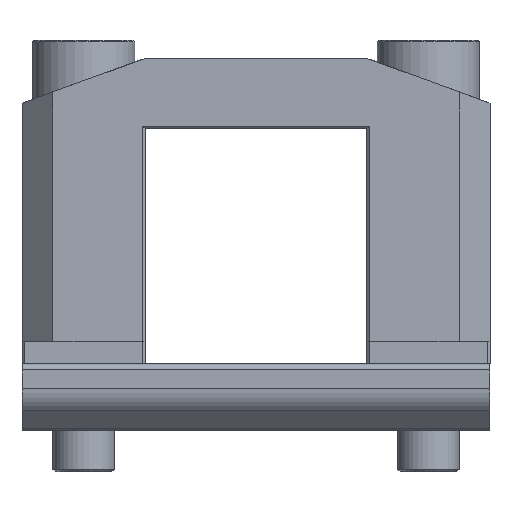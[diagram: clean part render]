
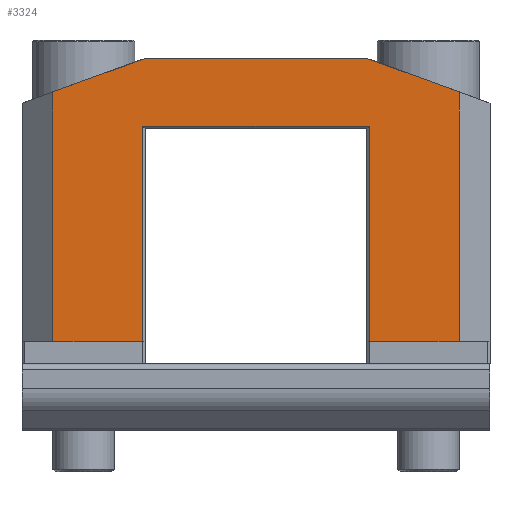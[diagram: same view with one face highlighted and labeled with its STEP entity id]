
A CAD part, front view. The second image highlights one B-rep face of the part: STEP entity #3324.
In plain terms, the highlighted planar face has unit normal (0, -1, 0).
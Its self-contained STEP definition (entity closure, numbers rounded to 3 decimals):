
#278 = EDGE_CURVE ( 'NONE', #1901, #8609, #9383, .T. ) ;
#388 = VECTOR ( 'NONE', #8718, 1000. ) ;
#516 = CARTESIAN_POINT ( 'NONE',  ( -17.271, 22.779, -10.6 ) ) ;
#529 = DIRECTION ( 'NONE',  ( -0.94, 0., 0.342 ) ) ;
#727 = ORIENTED_EDGE ( 'NONE', *, *, #779, .F. ) ;
#779 = EDGE_CURVE ( 'NONE', #5646, #7525, #9629, .T. ) ;
#795 = CARTESIAN_POINT ( 'NONE',  ( -35.671, 22.779, 6.9 ) ) ;
#834 = ORIENTED_EDGE ( 'NONE', *, *, #7484, .T. ) ;
#1019 = DIRECTION ( 'NONE',  ( 1., 0., 0. ) ) ;
#1154 = CARTESIAN_POINT ( 'NONE',  ( -42.971, 22.779, 9.67 ) ) ;
#1230 = LINE ( 'NONE', #8136, #6852 ) ;
#1245 = VECTOR ( 'NONE', #4495, 1000. ) ;
#1353 = EDGE_CURVE ( 'NONE', #9564, #2278, #3848, .T. ) ;
#1483 = EDGE_CURVE ( 'NONE', #4634, #9564, #8517, .T. ) ;
#1494 = CARTESIAN_POINT ( 'NONE',  ( -35.471, 22.779, 12.4 ) ) ;
#1817 = CARTESIAN_POINT ( 'NONE',  ( 0., 22.779, 0. ) ) ;
#1865 = VECTOR ( 'NONE', #7259, 1000. ) ;
#1901 = VERTEX_POINT ( 'NONE', #795 ) ;
#1935 = EDGE_CURVE ( 'NONE', #9555, #2278, #2410, .T. ) ;
#2169 = ORIENTED_EDGE ( 'NONE', *, *, #1353, .T. ) ;
#2278 = VERTEX_POINT ( 'NONE', #4523 ) ;
#2410 = LINE ( 'NONE', #9165, #388 ) ;
#2707 = ORIENTED_EDGE ( 'NONE', *, *, #5235, .T. ) ;
#2781 = AXIS2_PLACEMENT_3D ( 'NONE', #1817, #8754, #3393 ) ;
#2880 = DIRECTION ( 'NONE',  ( 0., 0., -1. ) ) ;
#3324 = ADVANCED_FACE ( 'NONE', ( #5738 ), #3879, .T. ) ;
#3393 = DIRECTION ( 'NONE',  ( 0., 0., -1. ) ) ;
#3416 = VECTOR ( 'NONE', #8731, 1000. ) ;
#3673 = LINE ( 'NONE', #8155, #5730 ) ;
#3790 = VERTEX_POINT ( 'NONE', #4310 ) ;
#3808 = EDGE_CURVE ( 'NONE', #9555, #1901, #3673, .T. ) ;
#3833 = ORIENTED_EDGE ( 'NONE', *, *, #3808, .T. ) ;
#3848 = LINE ( 'NONE', #7356, #7210 ) ;
#3879 = PLANE ( 'NONE',  #2781 ) ;
#4031 = EDGE_LOOP ( 'NONE', ( #6248, #2169, #4040, #3833, #9812, #2707, #727, #834, #9191, #8909 ) ) ;
#4040 = ORIENTED_EDGE ( 'NONE', *, *, #1935, .F. ) ;
#4310 = CARTESIAN_POINT ( 'NONE',  ( -17.471, 22.779, 12.4 ) ) ;
#4395 = DIRECTION ( 'NONE',  ( -0.94, 0., -0.342 ) ) ;
#4495 = DIRECTION ( 'NONE',  ( -1., 0., 0. ) ) ;
#4523 = CARTESIAN_POINT ( 'NONE',  ( -42.971, 22.779, -10.6 ) ) ;
#4634 = VERTEX_POINT ( 'NONE', #7804 ) ;
#4742 = EDGE_CURVE ( 'NONE', #3790, #4634, #5941, .T. ) ;
#5235 = EDGE_CURVE ( 'NONE', #8609, #7525, #5709, .T. ) ;
#5587 = CARTESIAN_POINT ( 'NONE',  ( -17.471, 22.779, 6.9 ) ) ;
#5646 = VERTEX_POINT ( 'NONE', #7108 ) ;
#5709 = LINE ( 'NONE', #7965, #3416 ) ;
#5730 = VECTOR ( 'NONE', #8125, 1000. ) ;
#5738 = FACE_OUTER_BOUND ( 'NONE', #4031, .T. ) ;
#5941 = LINE ( 'NONE', #6500, #1865 ) ;
#6021 = VECTOR ( 'NONE', #4395, 1000. ) ;
#6248 = ORIENTED_EDGE ( 'NONE', *, *, #1483, .T. ) ;
#6281 = VECTOR ( 'NONE', #7365, 1000. ) ;
#6486 = CARTESIAN_POINT ( 'NONE',  ( -35.671, 22.779, -10.6 ) ) ;
#6500 = CARTESIAN_POINT ( 'NONE',  ( -17.471, 22.779, 12.4 ) ) ;
#6524 = LINE ( 'NONE', #6614, #6281 ) ;
#6614 = CARTESIAN_POINT ( 'NONE',  ( -9.971, 22.779, 0. ) ) ;
#6802 = CARTESIAN_POINT ( 'NONE',  ( -9.971, 22.779, 9.67 ) ) ;
#6852 = VECTOR ( 'NONE', #529, 1000. ) ;
#7108 = CARTESIAN_POINT ( 'NONE',  ( -9.971, 22.779, -10.6 ) ) ;
#7210 = VECTOR ( 'NONE', #2880, 1000. ) ;
#7259 = DIRECTION ( 'NONE',  ( -1., 0., 0. ) ) ;
#7356 = CARTESIAN_POINT ( 'NONE',  ( -42.971, 22.779, 0. ) ) ;
#7365 = DIRECTION ( 'NONE',  ( 0., 0., 1. ) ) ;
#7484 = EDGE_CURVE ( 'NONE', #5646, #9776, #6524, .T. ) ;
#7525 = VERTEX_POINT ( 'NONE', #516 ) ;
#7605 = CARTESIAN_POINT ( 'NONE',  ( -7.471, 22.779, -10.6 ) ) ;
#7804 = CARTESIAN_POINT ( 'NONE',  ( -35.471, 22.779, 12.4 ) ) ;
#7965 = CARTESIAN_POINT ( 'NONE',  ( -17.271, 22.779, -10.6 ) ) ;
#8125 = DIRECTION ( 'NONE',  ( 0., 0., 1. ) ) ;
#8136 = CARTESIAN_POINT ( 'NONE',  ( -7.471, 22.779, 8.76 ) ) ;
#8155 = CARTESIAN_POINT ( 'NONE',  ( -35.671, 22.779, 6.7 ) ) ;
#8517 = LINE ( 'NONE', #1494, #6021 ) ;
#8521 = EDGE_CURVE ( 'NONE', #9776, #3790, #1230, .T. ) ;
#8609 = VERTEX_POINT ( 'NONE', #9024 ) ;
#8718 = DIRECTION ( 'NONE',  ( -1., 0., 0. ) ) ;
#8731 = DIRECTION ( 'NONE',  ( 0., 0., -1. ) ) ;
#8754 = DIRECTION ( 'NONE',  ( 0., -1., 0. ) ) ;
#8909 = ORIENTED_EDGE ( 'NONE', *, *, #4742, .T. ) ;
#9024 = CARTESIAN_POINT ( 'NONE',  ( -17.271, 22.779, 6.9 ) ) ;
#9145 = VECTOR ( 'NONE', #1019, 1000. ) ;
#9165 = CARTESIAN_POINT ( 'NONE',  ( -7.47, 22.779, -10.6 ) ) ;
#9191 = ORIENTED_EDGE ( 'NONE', *, *, #8521, .T. ) ;
#9383 = LINE ( 'NONE', #5587, #9145 ) ;
#9555 = VERTEX_POINT ( 'NONE', #6486 ) ;
#9564 = VERTEX_POINT ( 'NONE', #1154 ) ;
#9629 = LINE ( 'NONE', #7605, #1245 ) ;
#9776 = VERTEX_POINT ( 'NONE', #6802 ) ;
#9812 = ORIENTED_EDGE ( 'NONE', *, *, #278, .T. ) ;
